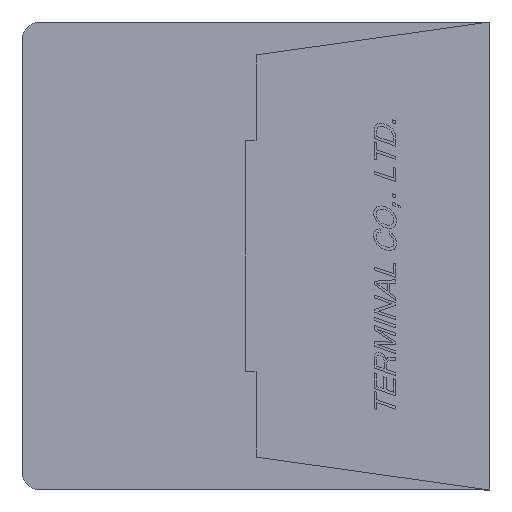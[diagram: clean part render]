
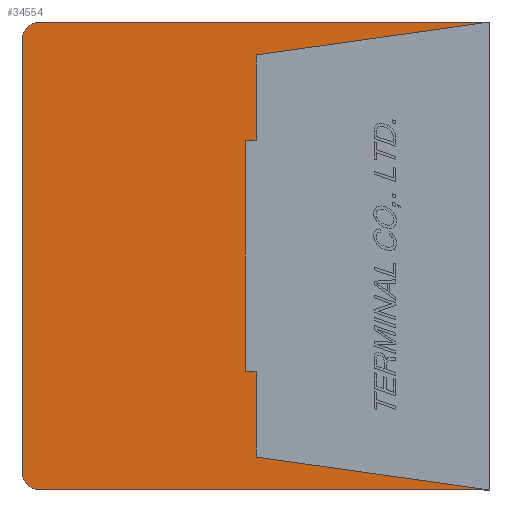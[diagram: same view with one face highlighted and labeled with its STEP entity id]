
A CAD part, left-side view. The second image highlights one B-rep face of the part: STEP entity #34554.
In plain terms, the highlighted planar face has unit normal (-1, 0, 0).
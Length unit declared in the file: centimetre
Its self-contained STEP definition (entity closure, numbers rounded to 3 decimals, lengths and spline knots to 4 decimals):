
#1784=CIRCLE('',#59227,0.05);
#1785=CIRCLE('',#59230,0.05);
#3032=VERTEX_POINT('',#47955);
#3033=VERTEX_POINT('',#47957);
#3034=VERTEX_POINT('',#47961);
#3035=VERTEX_POINT('',#47965);
#3036=VERTEX_POINT('',#47969);
#3037=VERTEX_POINT('',#47973);
#3038=VERTEX_POINT('',#47977);
#3039=VERTEX_POINT('',#47979);
#3040=VERTEX_POINT('',#47981);
#3041=VERTEX_POINT('',#47983);
#3042=VERTEX_POINT('',#47985);
#3043=VERTEX_POINT('',#47987);
#6694=VECTOR('',#40008,1.);
#6698=VECTOR('',#40017,1.);
#6701=VECTOR('',#40025,1.);
#6702=VECTOR('',#40027,1.);
#6703=VECTOR('',#40028,1.);
#6704=VECTOR('',#40029,1.);
#6705=VECTOR('',#40030,1.);
#6706=VECTOR('',#40031,1.);
#6707=VECTOR('',#40032,1.);
#6708=VECTOR('',#40033,1.);
#10766=LINE('',#47956,#6694);
#10770=LINE('',#47966,#6698);
#10773=LINE('',#47974,#6701);
#10774=LINE('',#47976,#6702);
#10775=LINE('',#47978,#6703);
#10776=LINE('',#47980,#6704);
#10777=LINE('',#47982,#6705);
#10778=LINE('',#47984,#6706);
#10779=LINE('',#47986,#6707);
#10780=LINE('',#47988,#6708);
#15274=EDGE_CURVE('',#3033,#3032,#10766,.T.);
#15277=EDGE_CURVE('',#3034,#3032,#1784,.T.);
#15279=EDGE_CURVE('',#3034,#3035,#10770,.T.);
#15281=EDGE_CURVE('',#3036,#3035,#1785,.T.);
#15283=EDGE_CURVE('',#3036,#3037,#10773,.T.);
#15284=EDGE_CURVE('',#3038,#3033,#10774,.T.);
#15285=EDGE_CURVE('',#3037,#3039,#10775,.T.);
#15286=EDGE_CURVE('',#3039,#3040,#10776,.T.);
#15287=EDGE_CURVE('',#3040,#3041,#10777,.T.);
#15288=EDGE_CURVE('',#3041,#3042,#10778,.T.);
#15289=EDGE_CURVE('',#3042,#3043,#10779,.T.);
#15290=EDGE_CURVE('',#3043,#3038,#10780,.T.);
#22215=ORIENTED_EDGE('',*,*,#15284,.T.);
#22216=ORIENTED_EDGE('',*,*,#15274,.T.);
#22217=ORIENTED_EDGE('',*,*,#15277,.F.);
#22218=ORIENTED_EDGE('',*,*,#15279,.T.);
#22219=ORIENTED_EDGE('',*,*,#15281,.F.);
#22220=ORIENTED_EDGE('',*,*,#15283,.T.);
#22221=ORIENTED_EDGE('',*,*,#15285,.T.);
#22222=ORIENTED_EDGE('',*,*,#15286,.T.);
#22223=ORIENTED_EDGE('',*,*,#15287,.T.);
#22224=ORIENTED_EDGE('',*,*,#15288,.T.);
#22225=ORIENTED_EDGE('',*,*,#15289,.T.);
#22226=ORIENTED_EDGE('',*,*,#15290,.T.);
#30076=EDGE_LOOP('',(#22215,#22216,#22217,#22218,#22219,#22220,#22221,#22222,
#22223,#22224,#22225,#22226));
#32364=FACE_BOUND('',#30076,.T.);
#34554=ADVANCED_FACE('',(#32364),#36460,.F.);
#36460=PLANE('',#59232);
#40008=DIRECTION('',(0.,1.,0.));
#40013=DIRECTION('',(1.,0.,0.));
#40014=DIRECTION('',(0.,0.,-0.05));
#40017=DIRECTION('',(0.,0.,-1.));
#40021=DIRECTION('',(1.,0.,0.));
#40022=DIRECTION('',(0.,0.,-0.05));
#40025=DIRECTION('',(0.,-1.,0.));
#40026=DIRECTION('',(1.,0.,0.));
#40027=DIRECTION('',(0.,-0.99,0.139));
#40028=DIRECTION('',(0.,0.99,0.139));
#40029=DIRECTION('',(0.,0.,1.));
#40030=DIRECTION('',(0.,1.,0.));
#40031=DIRECTION('',(0.,0.,1.));
#40032=DIRECTION('',(0.,-1.,0.));
#40033=DIRECTION('',(0.,0.,1.));
#47955=CARTESIAN_POINT('',(-0.889,1.23,0.64));
#47956=CARTESIAN_POINT('',(-0.889,0.,0.64));
#47957=CARTESIAN_POINT('',(-0.889,0.,0.64));
#47961=CARTESIAN_POINT('',(-0.889,1.28,0.59));
#47962=CARTESIAN_POINT('',(-0.889,1.23,0.59));
#47965=CARTESIAN_POINT('',(-0.889,1.28,-0.59));
#47966=CARTESIAN_POINT('',(-0.889,1.28,0.59));
#47969=CARTESIAN_POINT('',(-0.889,1.23,-0.64));
#47970=CARTESIAN_POINT('',(-0.889,1.23,-0.59));
#47973=CARTESIAN_POINT('',(-0.889,0.,-0.64));
#47974=CARTESIAN_POINT('',(-0.889,1.23,-0.64));
#47975=CARTESIAN_POINT('',(-0.889,0.6345,0.));
#47976=CARTESIAN_POINT('',(-0.889,0.64,0.55));
#47977=CARTESIAN_POINT('',(-0.889,0.64,0.55));
#47978=CARTESIAN_POINT('',(-0.889,0.,-0.64));
#47979=CARTESIAN_POINT('',(-0.889,0.64,-0.55));
#47980=CARTESIAN_POINT('',(-0.889,0.64,-0.55));
#47981=CARTESIAN_POINT('',(-0.889,0.64,-0.315));
#47982=CARTESIAN_POINT('',(-0.889,0.64,-0.315));
#47983=CARTESIAN_POINT('',(-0.889,0.67,-0.315));
#47984=CARTESIAN_POINT('',(-0.889,0.67,-0.315));
#47985=CARTESIAN_POINT('',(-0.889,0.67,0.315));
#47986=CARTESIAN_POINT('',(-0.889,0.67,0.315));
#47987=CARTESIAN_POINT('',(-0.889,0.64,0.315));
#47988=CARTESIAN_POINT('',(-0.889,0.64,0.315));
#59227=AXIS2_PLACEMENT_3D('',#47962,#40013,#40014);
#59230=AXIS2_PLACEMENT_3D('',#47970,#40021,#40022);
#59232=AXIS2_PLACEMENT_3D('',#47975,#40026,$);
